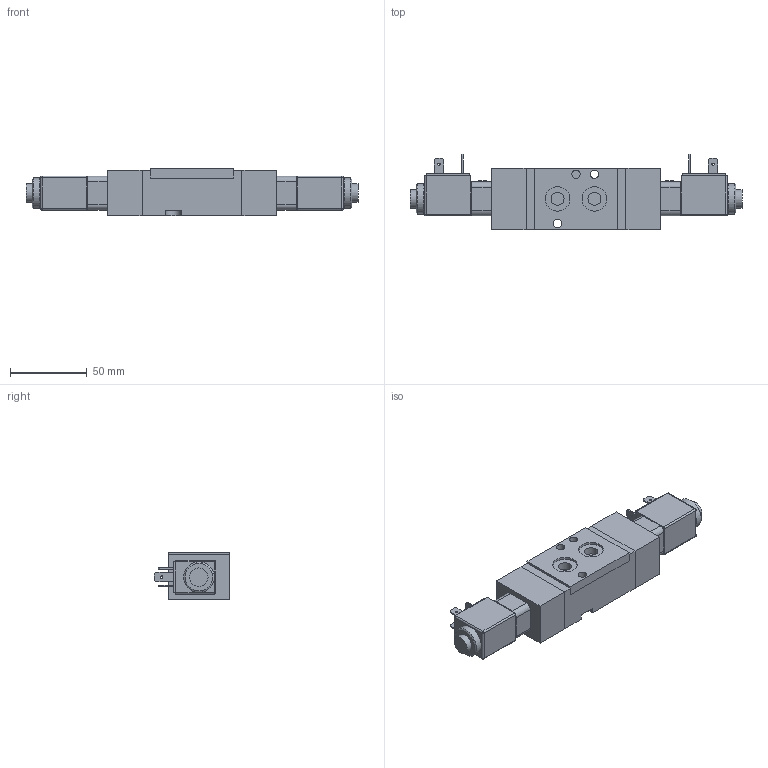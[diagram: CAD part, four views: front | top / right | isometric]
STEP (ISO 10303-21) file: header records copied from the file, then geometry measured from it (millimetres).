
FILE_DESCRIPTION((''),'2;1');
FILE_NAME('I:\Area Tecnica\Disegni\VARIE-3D\Componenti\T514\3D\T514_52_00_35_B#.stp','2008-05-09T11:20:54',('foiengi1'),(''),'Autodesk Inventor 2008','Autodesk Inventor 2008','');
FILE_SCHEMA(('AUTOMOTIVE_DESIGN { 1 0 10303 214 1 1 1 1 }'));
Length unit declared in the file: millimetre
Products named in the file (3): T514_52_00_35_B#; T514_52_00_35_B00; MB
Assembly tree (3 placements, depth 2):
  T514_52_00_35_B#
    T514_52_00_35_B00
    MB  x2
Bounding box: 216 x 49 x 31 mm (x, y, z)
Volume: 179297.1 mm3; surface area: 37330.5 mm2
Topology: 3 solids, 3 shells, 235 faces, 525 edges, 341 vertices
Faces by surface type: plane 121, bspline 73, cylinder 36, sphere 4, cone 1
Full cylindrical faces by diameter (mm): 5.5 x3, 7.4 x1, 8.2 x4, 9.8 x1, 10 x1, 10.2 x2, 12 x1, 13 x1, 13.5 x1, 16 x2, 16.2 x2, 20 x1
Entity records: 5484 total; most frequent: CARTESIAN_POINT 1483, DIRECTION 719, ORIENTED_EDGE 690, EDGE_CURVE 345, EDGE_LOOP 289, VERTEX_POINT 256, AXIS2_PLACEMENT_3D 250, VECTOR 219
